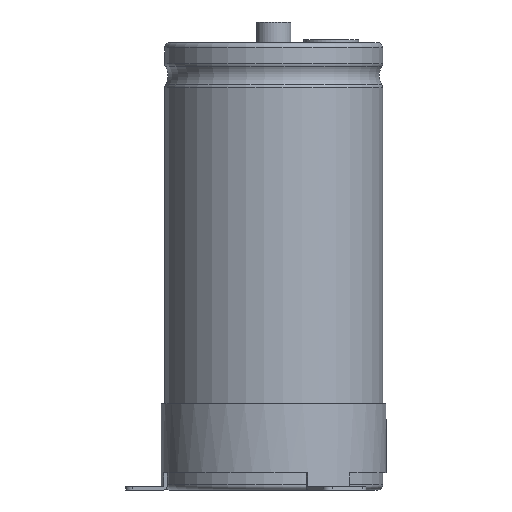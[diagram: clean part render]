
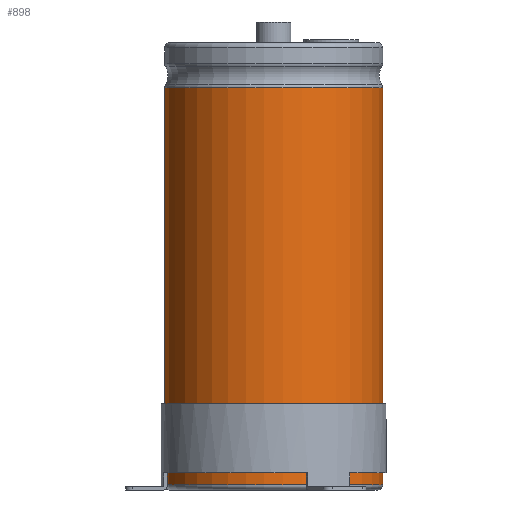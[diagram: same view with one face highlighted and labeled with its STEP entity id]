
A CAD part, front view. The second image highlights one B-rep face of the part: STEP entity #898.
In plain terms, the highlighted cylindrical face has radius 31.75 mm (diameter 63.5 mm), a partial arc.
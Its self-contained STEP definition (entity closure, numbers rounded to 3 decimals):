
#898=ADVANCED_FACE('',(#1199),#1037,.T.);
#1037=CYLINDRICAL_SURFACE('',#4842,31.75);
#1199=FACE_OUTER_BOUND('',#1450,.T.);
#1450=EDGE_LOOP('',(#2666,#2667,#2668,#2669));
#1741=CIRCLE('',#4839,31.75);
#1742=CIRCLE('',#4841,31.75);
#2666=ORIENTED_EDGE('',*,*,#3888,.T.);
#2667=ORIENTED_EDGE('',*,*,#3889,.T.);
#2668=ORIENTED_EDGE('',*,*,#3890,.F.);
#2669=ORIENTED_EDGE('',*,*,#3891,.F.);
#3337=VERTEX_POINT('',#7875);
#3339=VERTEX_POINT('',#7879);
#3340=VERTEX_POINT('',#7883);
#3341=VERTEX_POINT('',#7885);
#3888=EDGE_CURVE('',#3337,#3339,#1741,.T.);
#3889=EDGE_CURVE('',#3339,#3340,#4231,.T.);
#3890=EDGE_CURVE('',#3341,#3340,#1742,.T.);
#3891=EDGE_CURVE('',#3337,#3341,#4232,.T.);
#4231=LINE('',#7882,#4445);
#4232=LINE('',#7886,#4446);
#4445=VECTOR('',#5840,1.);
#4446=VECTOR('',#5843,1.);
#4839=AXIS2_PLACEMENT_3D('',#7880,#5836,#5837);
#4841=AXIS2_PLACEMENT_3D('',#7884,#5841,#5842);
#4842=AXIS2_PLACEMENT_3D('',#7887,#5844,#5845);
#5836=DIRECTION('',(0.,0.,-1.));
#5837=DIRECTION('',(0.,1.,0.));
#5840=DIRECTION('',(0.,0.,-1.));
#5841=DIRECTION('',(0.,0.,-1.));
#5842=DIRECTION('',(0.,1.,0.));
#5843=DIRECTION('',(0.,0.,-1.));
#5844=DIRECTION('',(0.,0.,-1.));
#5845=DIRECTION('',(0.,1.,0.));
#7875=CARTESIAN_POINT('',(4.007,31.496,116.9));
#7879=CARTESIAN_POINT('',(-4.007,31.496,116.9));
#7880=CARTESIAN_POINT('',(0.,0.,116.9));
#7882=CARTESIAN_POINT('',(-4.007,31.496,116.9));
#7883=CARTESIAN_POINT('',(-4.007,31.496,1.5));
#7884=CARTESIAN_POINT('',(0.,0.,1.5));
#7885=CARTESIAN_POINT('',(4.007,31.496,1.5));
#7886=CARTESIAN_POINT('',(4.007,31.496,116.9));
#7887=CARTESIAN_POINT('',(0.,0.,0.));
